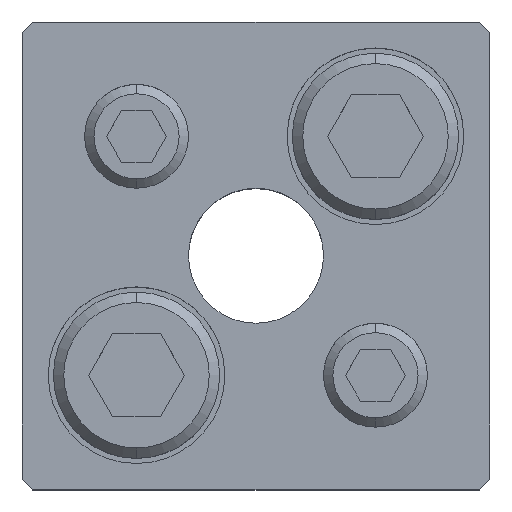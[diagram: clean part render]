
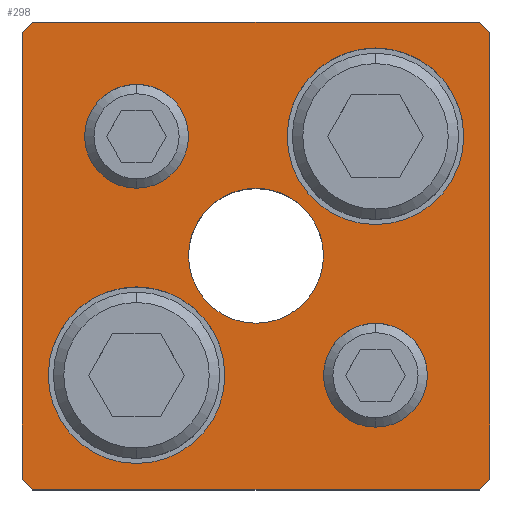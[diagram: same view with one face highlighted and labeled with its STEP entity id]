
A CAD part, top view. The second image highlights one B-rep face of the part: STEP entity #298.
In plain terms, the highlighted planar face has unit normal (0, 0, 1).
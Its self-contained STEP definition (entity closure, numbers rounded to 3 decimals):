
#155=PLANE('',#2455);
#222=FACE_BOUND('',#611,.T.);
#223=FACE_BOUND('',#612,.T.);
#224=FACE_BOUND('',#613,.T.);
#225=FACE_BOUND('',#614,.T.);
#226=FACE_BOUND('',#615,.T.);
#227=FACE_BOUND('',#616,.T.);
#298=ADVANCED_FACE('',(#222,#223,#224,#225,#226,#227),#155,.T.);
#611=EDGE_LOOP('',(#1291,#1292,#1293,#1294,#1295,#1296,#1297,#1298));
#612=EDGE_LOOP('',(#1299,#1300));
#613=EDGE_LOOP('',(#1301,#1302));
#614=EDGE_LOOP('',(#1303,#1304));
#615=EDGE_LOOP('',(#1305,#1306));
#616=EDGE_LOOP('',(#1307,#1308));
#762=LINE('',#3575,#948);
#763=LINE('',#3578,#949);
#764=LINE('',#3580,#950);
#765=LINE('',#3582,#951);
#766=LINE('',#3584,#952);
#767=LINE('',#3586,#953);
#768=LINE('',#3588,#954);
#769=LINE('',#3590,#955);
#948=VECTOR('',#2859,1.);
#949=VECTOR('',#2860,1.);
#950=VECTOR('',#2861,1.);
#951=VECTOR('',#2862,1.);
#952=VECTOR('',#2863,1.);
#953=VECTOR('',#2864,1.);
#954=VECTOR('',#2865,1.);
#955=VECTOR('',#2866,1.);
#1291=ORIENTED_EDGE('',*,*,#2022,.T.);
#1292=ORIENTED_EDGE('',*,*,#2023,.T.);
#1293=ORIENTED_EDGE('',*,*,#2024,.T.);
#1294=ORIENTED_EDGE('',*,*,#2025,.T.);
#1295=ORIENTED_EDGE('',*,*,#2026,.T.);
#1296=ORIENTED_EDGE('',*,*,#2027,.T.);
#1297=ORIENTED_EDGE('',*,*,#2028,.T.);
#1298=ORIENTED_EDGE('',*,*,#2029,.T.);
#1299=ORIENTED_EDGE('',*,*,#2030,.F.);
#1300=ORIENTED_EDGE('',*,*,#2031,.F.);
#1301=ORIENTED_EDGE('',*,*,#2032,.F.);
#1302=ORIENTED_EDGE('',*,*,#2033,.F.);
#1303=ORIENTED_EDGE('',*,*,#2008,.F.);
#1304=ORIENTED_EDGE('',*,*,#2004,.F.);
#1305=ORIENTED_EDGE('',*,*,#2002,.F.);
#1306=ORIENTED_EDGE('',*,*,#1998,.F.);
#1307=ORIENTED_EDGE('',*,*,#2034,.T.);
#1308=ORIENTED_EDGE('',*,*,#2035,.T.);
#1769=VERTEX_POINT('',#3526);
#1770=VERTEX_POINT('',#3527);
#1773=VERTEX_POINT('',#3539);
#1774=VERTEX_POINT('',#3540);
#1785=VERTEX_POINT('',#3576);
#1786=VERTEX_POINT('',#3577);
#1787=VERTEX_POINT('',#3579);
#1788=VERTEX_POINT('',#3581);
#1789=VERTEX_POINT('',#3583);
#1790=VERTEX_POINT('',#3585);
#1791=VERTEX_POINT('',#3587);
#1792=VERTEX_POINT('',#3589);
#1793=VERTEX_POINT('',#3592);
#1794=VERTEX_POINT('',#3593);
#1795=VERTEX_POINT('',#3596);
#1796=VERTEX_POINT('',#3597);
#1797=VERTEX_POINT('',#3600);
#1798=VERTEX_POINT('',#3601);
#1998=EDGE_CURVE('',#1769,#1770,#2267,.T.);
#2002=EDGE_CURVE('',#1770,#1769,#2269,.T.);
#2004=EDGE_CURVE('',#1773,#1774,#2271,.T.);
#2008=EDGE_CURVE('',#1774,#1773,#2273,.T.);
#2022=EDGE_CURVE('',#1785,#1786,#762,.T.);
#2023=EDGE_CURVE('',#1786,#1787,#763,.T.);
#2024=EDGE_CURVE('',#1787,#1788,#764,.T.);
#2025=EDGE_CURVE('',#1788,#1789,#765,.T.);
#2026=EDGE_CURVE('',#1789,#1790,#766,.T.);
#2027=EDGE_CURVE('',#1790,#1791,#767,.T.);
#2028=EDGE_CURVE('',#1791,#1792,#768,.T.);
#2029=EDGE_CURVE('',#1792,#1785,#769,.T.);
#2030=EDGE_CURVE('',#1793,#1794,#2283,.T.);
#2031=EDGE_CURVE('',#1794,#1793,#2284,.T.);
#2032=EDGE_CURVE('',#1795,#1796,#2285,.T.);
#2033=EDGE_CURVE('',#1796,#1795,#2286,.T.);
#2034=EDGE_CURVE('',#1797,#1798,#2287,.T.);
#2035=EDGE_CURVE('',#1798,#1797,#2288,.T.);
#2267=CIRCLE('',#2423,5.);
#2269=CIRCLE('',#2426,5.);
#2271=CIRCLE('',#2430,5.);
#2273=CIRCLE('',#2433,5.);
#2283=CIRCLE('',#2449,8.5);
#2284=CIRCLE('',#2450,8.5);
#2285=CIRCLE('',#2451,8.5);
#2286=CIRCLE('',#2452,8.5);
#2287=CIRCLE('',#2453,6.5);
#2288=CIRCLE('',#2454,6.5);
#2423=AXIS2_PLACEMENT_3D('',#3525,#2799,#2800);
#2426=AXIS2_PLACEMENT_3D('',#3534,#2807,#2808);
#2430=AXIS2_PLACEMENT_3D('',#3538,#2815,#2816);
#2433=AXIS2_PLACEMENT_3D('',#3547,#2823,#2824);
#2449=AXIS2_PLACEMENT_3D('',#3591,#2867,#2868);
#2450=AXIS2_PLACEMENT_3D('',#3594,#2869,#2870);
#2451=AXIS2_PLACEMENT_3D('',#3595,#2871,#2872);
#2452=AXIS2_PLACEMENT_3D('',#3598,#2873,#2874);
#2453=AXIS2_PLACEMENT_3D('',#3599,#2875,#2876);
#2454=AXIS2_PLACEMENT_3D('',#3602,#2877,#2878);
#2455=AXIS2_PLACEMENT_3D('',#3603,#2879,#2880);
#2799=DIRECTION('',(0.,0.,1.));
#2800=DIRECTION('',(-1.,0.,0.));
#2807=DIRECTION('',(0.,0.,1.));
#2808=DIRECTION('',(1.,0.,0.));
#2815=DIRECTION('',(0.,0.,1.));
#2816=DIRECTION('',(-1.,0.,0.));
#2823=DIRECTION('',(0.,0.,1.));
#2824=DIRECTION('',(1.,0.,0.));
#2859=DIRECTION('',(0.707,0.707,0.));
#2860=DIRECTION('',(0.,1.,0.));
#2861=DIRECTION('',(-0.707,0.707,0.));
#2862=DIRECTION('',(-1.,0.,0.));
#2863=DIRECTION('',(-0.707,-0.707,0.));
#2864=DIRECTION('',(0.,-1.,0.));
#2865=DIRECTION('',(0.707,-0.707,0.));
#2866=DIRECTION('',(1.,0.,0.));
#2867=DIRECTION('',(0.,0.,1.));
#2868=DIRECTION('',(1.,0.,0.));
#2869=DIRECTION('',(0.,0.,1.));
#2870=DIRECTION('',(-1.,0.,0.));
#2871=DIRECTION('',(0.,0.,1.));
#2872=DIRECTION('',(1.,0.,0.));
#2873=DIRECTION('',(0.,0.,1.));
#2874=DIRECTION('',(-1.,0.,0.));
#2875=DIRECTION('',(0.,0.,-1.));
#2876=DIRECTION('',(-1.,0.,0.));
#2877=DIRECTION('',(0.,0.,-1.));
#2878=DIRECTION('',(1.,0.,0.));
#2879=DIRECTION('',(0.,0.,1.));
#2880=DIRECTION('',(-1.,0.,0.));
#3525=CARTESIAN_POINT('',(11.5,-11.5,30.));
#3526=CARTESIAN_POINT('',(11.5,-16.5,30.));
#3527=CARTESIAN_POINT('',(11.5,-6.5,30.));
#3534=CARTESIAN_POINT('',(11.5,-11.5,30.));
#3538=CARTESIAN_POINT('',(-11.5,11.5,30.));
#3539=CARTESIAN_POINT('',(-11.5,6.5,30.));
#3540=CARTESIAN_POINT('',(-11.5,16.5,30.));
#3547=CARTESIAN_POINT('',(-11.5,11.5,30.));
#3575=CARTESIAN_POINT('',(21.5,-22.5,30.));
#3576=CARTESIAN_POINT('',(21.5,-22.5,30.));
#3577=CARTESIAN_POINT('',(22.5,-21.5,30.));
#3578=CARTESIAN_POINT('',(22.5,21.5,30.));
#3579=CARTESIAN_POINT('',(22.5,21.5,30.));
#3580=CARTESIAN_POINT('',(22.5,21.5,30.));
#3581=CARTESIAN_POINT('',(21.5,22.5,30.));
#3582=CARTESIAN_POINT('',(-21.5,22.5,30.));
#3583=CARTESIAN_POINT('',(-21.5,22.5,30.));
#3584=CARTESIAN_POINT('',(-21.5,22.5,30.));
#3585=CARTESIAN_POINT('',(-22.5,21.5,30.));
#3586=CARTESIAN_POINT('',(-22.5,21.5,30.));
#3587=CARTESIAN_POINT('',(-22.5,-21.5,30.));
#3588=CARTESIAN_POINT('',(-22.5,-21.5,30.));
#3589=CARTESIAN_POINT('',(-21.5,-22.5,30.));
#3590=CARTESIAN_POINT('',(-21.5,-22.5,30.));
#3591=CARTESIAN_POINT('',(11.5,11.5,30.));
#3592=CARTESIAN_POINT('',(11.5,20.,30.));
#3593=CARTESIAN_POINT('',(11.5,3.,30.));
#3594=CARTESIAN_POINT('',(11.5,11.5,30.));
#3595=CARTESIAN_POINT('',(-11.5,-11.5,30.));
#3596=CARTESIAN_POINT('',(-11.5,-3.,30.));
#3597=CARTESIAN_POINT('',(-11.5,-20.,30.));
#3598=CARTESIAN_POINT('',(-11.5,-11.5,30.));
#3599=CARTESIAN_POINT('',(0.,0.,30.));
#3600=CARTESIAN_POINT('',(0.,6.5,30.));
#3601=CARTESIAN_POINT('',(0.,-6.5,30.));
#3602=CARTESIAN_POINT('',(0.,0.,30.));
#3603=CARTESIAN_POINT('',(21.5,-22.5,30.));
